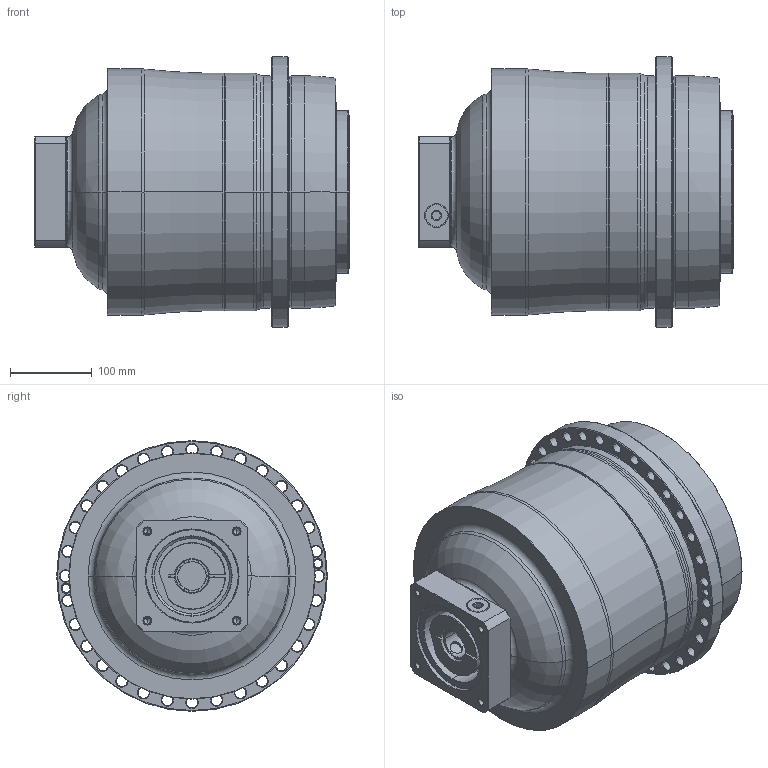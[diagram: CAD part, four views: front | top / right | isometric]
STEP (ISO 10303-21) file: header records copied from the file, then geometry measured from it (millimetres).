
FILE_DESCRIPTION((''),'2;1');
FILE_NAME('AP285_3ST_35-P0409800201_ASM','2018-06-06T',('d01226'),(''),'PRO/ENGINEER BY PARAMETRIC TECHNOLOGY CORPORATION, 2008410','PRO/ENGINEER BY PARAMETRIC TECHNOLOGY CORPORATION, 2008410','');
FILE_SCHEMA(('CONFIG_CONTROL_DESIGN'));
Length unit declared in the file: millimetre
Products named in the file (9): P0278801003; P0359801103; P1366800101; P0503800012; P0912601001; P1211800001; P0409800201; 21711422019; AP285_3ST_35-P0409800201_ASM
Assembly tree (8 placements, depth 2):
  AP285_3ST_35-P0409800201_ASM
    P0278801003
    P0359801103
    P1366800101
    P0503800012
    P0912601001
    P1211800001
    P0409800201
    21711422019
Bounding box: 385.5 x 332 x 332 mm (x, y, z)
Volume: 21190342.5 mm3; surface area: 961589.4 mm2
Topology: 9 solids, 32 shells, 677 faces, 1563 edges, 948 vertices
Faces by surface type: cylinder 266, cone 220, plane 99, torus 78, bspline 14
Entity records: 24196 total; most frequent: CARTESIAN_POINT 7973, DIRECTION 3745, ORIENTED_EDGE 3016, AXIS2_PLACEMENT_3D 1597, EDGE_CURVE 1555, VERTEX_POINT 948, CIRCLE 905, EDGE_LOOP 835
